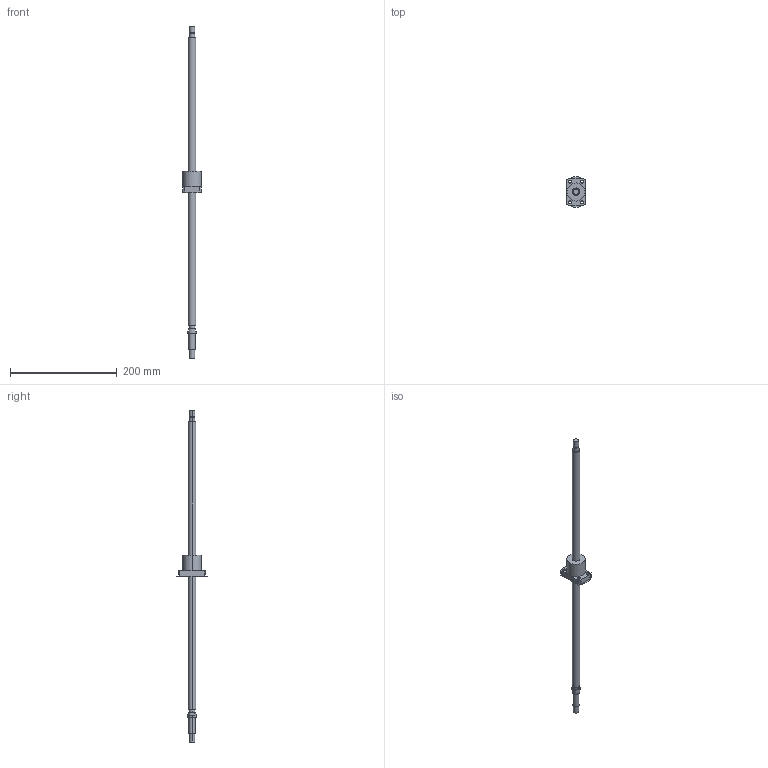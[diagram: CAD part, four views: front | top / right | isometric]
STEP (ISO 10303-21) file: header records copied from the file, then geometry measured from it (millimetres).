
FILE_DESCRIPTION((''),'2;1');
FILE_NAME('R14-5B1-FSW-539-621','2008-03-28T',('mahdi'),(''),'PRO/ENGINEER BY PARAMETRIC TECHNOLOGY CORPORATION, 2005070','PRO/ENGINEER BY PARAMETRIC TECHNOLOGY CORPORATION, 2005070','');
FILE_SCHEMA(('CONFIG_CONTROL_DESIGN'));
Length unit declared in the file: millimetre
Products named in the file (1): R14-5B1-FSW-539-621
Bounding box: 34 x 57 x 621 mm (x, y, z)
Volume: 128144.8 mm3; surface area: 34421.9 mm2
Topology: 1 solids, 1 shells, 65 faces, 146 edges, 96 vertices
Faces by surface type: cylinder 38, plane 27
Entity records: 1906 total; most frequent: DIRECTION 360, CARTESIAN_POINT 307, ORIENTED_EDGE 292, AXIS2_PLACEMENT_3D 149, EDGE_CURVE 146, VERTEX_POINT 96, EDGE_LOOP 86, CIRCLE 84
